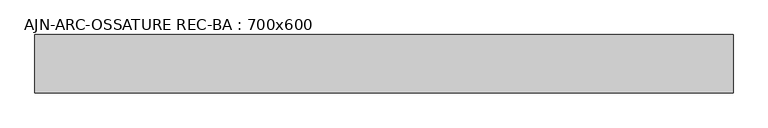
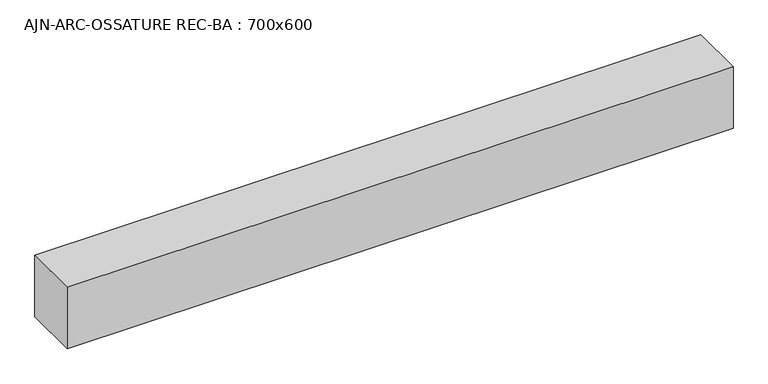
"""IFC4 building model written with IfcOpenShell, lengths in millimetres: beam geometry, AJN-ARC-OSSATURE REC-BA : 700x600."""

from ifc_helpers import new_model, si_unit, frame, origin, place, context, project, spatial, polyline, outline, extrude, source, transform, mapped, element, save


def ajn_arc_ossature_rec_ba_700x600_c2a8f1af(model_context):
    return source(origin(), model_context, "Body", "SweptSolid", [
        extrude(outline(polyline([(3600.0, 300.0), (3600.0, -300.0), (-3587.2999994, -300.0), (-3587.2999994, 300.0), (3600.0, 300.0)])), frame((0.0, 0.0, -350.0), z_axis=(0.0, 0.0, 1.0), x_axis=(1.0, 0.0, 0.0)), (0.0, 0.0, 1.0), 700.0),
    ])


if __name__ == "__main__":
    model = new_model("IFC4")
    model_context = context("Model", 3, world=origin())
    ifc_project = project(units=[si_unit("LENGTHUNIT", "METRE", prefix="MILLI")], contexts=[model_context])
    site = spatial("IfcSite", under=ifc_project)
    building = spatial("IfcBuilding", under=site)
    placement = place(None, origin())
    ajn_arc_ossature_rec_ba_700x600_shape = ajn_arc_ossature_rec_ba_700x600_c2a8f1af(model_context)
    element("IfcBeam", 1, ObjectType="AJN-ARC-OSSATURE REC-BA : 700x600", at=placement, inside=building, context=model_context, shape_type="MappedRepresentation", body=[
        mapped(ajn_arc_ossature_rec_ba_700x600_shape, transform((0.0, 0.0, 0.0), x_axis=(1.0, 0.0, 0.0), y_axis=(0.0, 1.0, 0.0), z_axis=(0.0, 0.0, 1.0))),
    ])
    save(model, "model.ifc")
